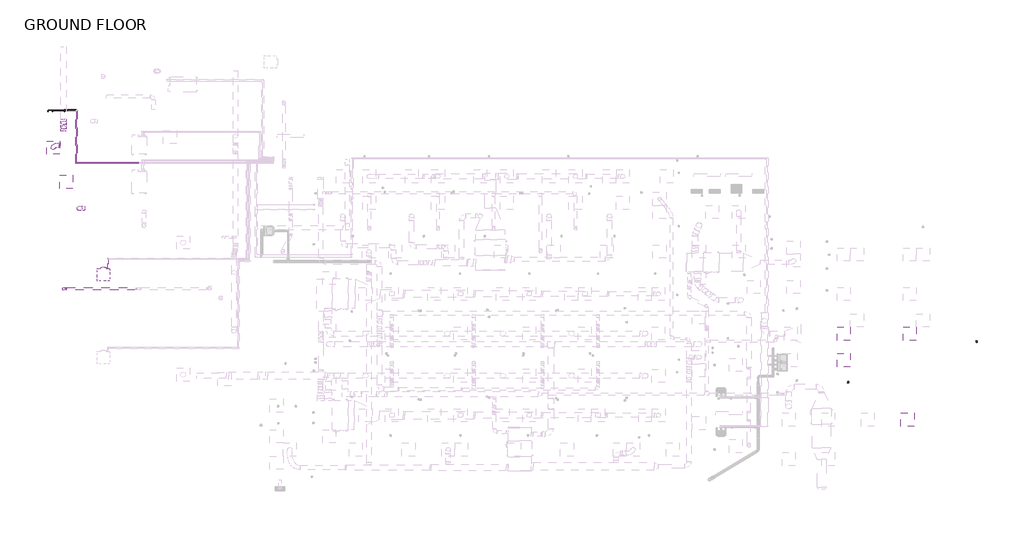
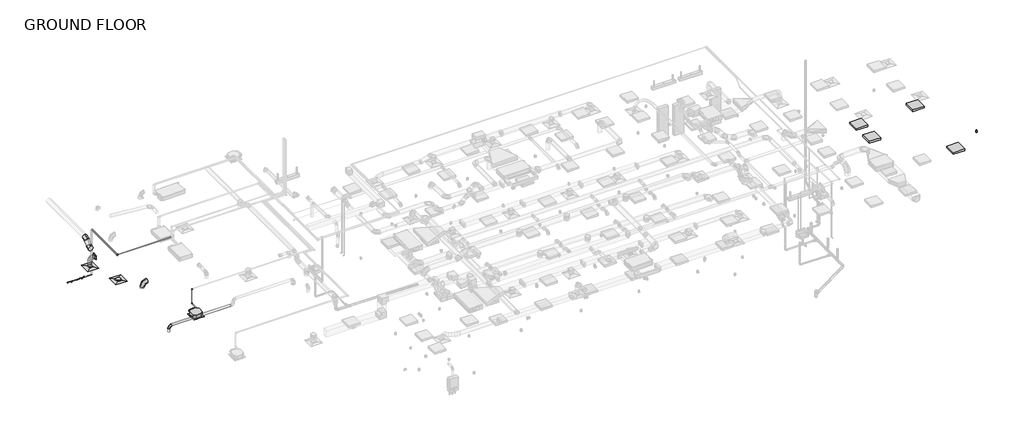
# One storey, part 10 of 21: 16 pipe segments, 13 pipe fittings, 5 duct fittings, 5 duct segments, 4 light fixtures, 2 air terminals, 2 proxies, 1 switching device.
"""IFC4 building model written with IfcOpenShell, lengths in millimetres."""

from ifc_helpers import new_model, si_unit, point, frame, frame_2d, origin, place, context, project, spatial, circle_curve, ellipse_curve, trimmed, segment, composite_curve, outline, extrude, transform, mapped, element, save
from ifc_brep_helpers import plane_surface, cylinder_surface, advanced_brep
from components import air_terminal_a1f6e78c, air_terminal_e9020785, mechanical_equipment_2d84379e, duplex_receptacle_countertop_10251bba, rectangular_to_round_transition_angle_45_degree_544928fe, round_elbow_1_d_df495868, round_elbow_1_d_c80420c1, round_elbow_1_d_ea3dccb8, troffer_corner_insert_2x2_3lamp_e67c7f8f, elbow_generic_standard_787ffbaa, elbow_generic_standard_c06ac706, elbow_generic_standard_a088f956, elbow_generic_standard_339fed54, tee_generic_standard_d345b28c, transition_generic_standard_19d9bb8b

model = new_model("IFC4")

# Units and contexts
model_context = context("Model", 3, world=origin())
ifc_project = project(units=[si_unit("LENGTHUNIT", "METRE", prefix="MILLI")], contexts=[model_context])

# Site, building, storey
site = spatial("IfcSite", under=ifc_project)
building = spatial("IfcBuilding", under=site)
storey = spatial("IfcBuildingStorey", under=building, Name="GROUND FLOOR", Elevation=30480.0)

# Air terminals
placement = place(None, origin())
air_terminal_shape = air_terminal_a1f6e78c(model_context)
element("IfcAirTerminal", 1, ObjectType="Supply Diffuser - Rectangular Face Round Neck - Hosted : 24\"x24\" Face 10\" Neck - Hosted", at=placement, inside=storey, context=model_context, shape_type="MappedRepresentation", body=[
    mapped(air_terminal_shape, transform((-18995.0704607, 6554.1945005, 32715.2), x_axis=(-1.0, 0.0, 0.0), y_axis=(0.0, 1.0, 0.0), z_axis=(0.0, 0.0, -1.0))),
])
air_terminal_2_shape = air_terminal_e9020785(model_context)
element("IfcAirTerminal", 2, ObjectType="Supply Diffuser - Rectangular Face Round Neck - Hosted : 24\"x24\" Face 8\" Neck - Hosted", at=placement, inside=storey, context=model_context, shape_type="MappedRepresentation", body=[
    mapped(air_terminal_2_shape, transform((-19604.6704607, 8141.6945005, 32715.2), x_axis=(-1.0, 0.0, 0.0), y_axis=(0.0, 1.0, 0.0), z_axis=(0.0, 0.0, -1.0))),
])

# Proxies
mechanical_equipment_shape = mechanical_equipment_2d84379e(model_context)
element("IfcBuildingElementProxy", 3, Name="PLFY-P-NCMU-E_4-way_24x24 : PLFY-P12NCMU-E", ObjectType="PLFY-P-NCMU-E_4-way_24x24 : PLFY-P12NCMU-E", at=placement, inside=storey, context=model_context, shape_type="MappedRepresentation", body=[
    mapped(mechanical_equipment_shape, transform((-17276.6017107, 2201.5275529, 32715.2), x_axis=(1.0, 0.0, 0.0), y_axis=(0.0, -1.0, 0.0), z_axis=(0.0, 0.0, -1.0))),
])
duplex_receptacle_countertop_shape = duplex_receptacle_countertop_10251bba(model_context)
element("IfcBuildingElementProxy", 4, Name="Duplex Receptacle : Standard", ObjectType="Duplex Receptacle : Standard", at=placement, inside=storey, context=model_context, shape_type="MappedRepresentation", body=[
    mapped(duplex_receptacle_countertop_shape, transform((23025.6405908, -795.9304995, 30937.2), x_axis=(-1.0, 0.0, 0.0), y_axis=(0.0, 0.0, 1.0), z_axis=(0.0, 1.0, 0.0))),
])

# Duct fittings
rectangular_to_round_transition_angle_45_degree_shape = rectangular_to_round_transition_angle_45_degree_544928fe(model_context)
element("IfcDuctFitting", 5, ObjectType="Rectangular to Round Transition - Angle : 45 Degree", at=placement, inside=storey, context=model_context, shape_type="MappedRepresentation", body=[
    mapped(rectangular_to_round_transition_angle_45_degree_shape, transform((-19272.8829607, 8243.4520797, 33126.0074624), x_axis=(-0.9999999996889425, 0.0, 2.4942236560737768e-05), y_axis=(0.0, -1.0000000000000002, 0.0), z_axis=(2.4942236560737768e-05, 0.0, 0.9999999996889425))),
])
round_elbow_1_d_shape = round_elbow_1_d_df495868(model_context)
element("IfcDuctFitting", 6, ObjectType="Round Elbow : 1 D", at=placement, inside=storey, context=model_context, shape_type="MappedRepresentation", body=[
    mapped(round_elbow_1_d_shape, transform((-18385.4704607, 5334.9945005, 33121.6), x_axis=(0.0, 0.0, 1.0), y_axis=(1.0, 0.0, 0.0), z_axis=(0.0, 1.0, 0.0))),
])
round_elbow_1_d_2_shape = round_elbow_1_d_c80420c1(model_context)
element("IfcDuctFitting", 7, ObjectType="Round Elbow : 1 D", at=placement, inside=storey, context=model_context, shape_type="MappedRepresentation", body=[
    mapped(round_elbow_1_d_2_shape, transform((-19110.9579607, 1613.8945005, 33121.6), x_axis=(0.0, 0.0, 1.0), y_axis=(1.0, 0.0, 0.0), z_axis=(0.0, 1.0, 0.0))),
])
round_elbow_1_d_3_shape = round_elbow_1_d_ea3dccb8(model_context)
element("IfcDuctFitting", 8, ObjectType="Round Elbow : 1 D", at=placement, inside=storey, context=model_context, shape_type="MappedRepresentation", body=[
    mapped(round_elbow_1_d_3_shape, transform((-19120.4829607, 9003.6440535, 33126.0036612), x_axis=(0.0, 1.0, 0.0), y_axis=(0.0, 0.0, 1.0), z_axis=(1.0, 0.0, 0.0))),
])
element("IfcDuctFitting", 9, ObjectType="Round Elbow : 1 D", at=placement, inside=storey, context=model_context, shape_type="MappedRepresentation", body=[
    mapped(round_elbow_1_d_3_shape, transform((-19120.4829607, 9354.8403924, 33477.2), x_axis=(0.0, 0.707106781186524, 0.7071067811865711), y_axis=(0.0, 0.7071067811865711, -0.707106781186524), z_axis=(-1.0, 0.0, 0.0))),
])

# Duct segments
element("IfcDuctSegment", 10, ObjectType="Flex - Round", at=placement, inside=storey, context=model_context, shape_type="AdvancedBrep", body=[
    advanced_brep(
    [(-19334.2039851, 8141.8520797, 33126.0089919), (-19334.2065193, 8243.4520797, 33024.4089919), (-19334.2039851, 8345.0520797, 33126.0089919), (-19334.201451, 8243.4520797, 33227.6089918), (-19339.3953235, 8141.8520797, 33126.0091214), (-19340.589868, 8243.4520797, 33024.4091511), (-19337.3595831, 8345.0520797, 33126.0090706), (-19336.1650386, 8243.4520797, 33227.6090408), (-19571.3746602, 8045.7051799, 32769.175), (-19700.6597813, 8108.3987, 32769.175), (-19637.9662612, 8237.6838211, 32769.175), (-19508.6811401, 8174.990301, 32769.175), (-19406.4431173, 8143.1962762, 33128.9291558), (-19402.5083386, 8244.6934419, 33027.1057956), (-19412.9036409, 8346.5666122, 33129.2991304), (-19416.8384197, 8245.0694466, 33231.1224905), (-19458.1959934, 8138.8316889, 33119.2963139), (-19433.6401005, 8242.0679396, 33021.3111932), (-19496.173822, 8339.5440078, 33113.7999244), (-19520.7297149, 8236.3077571, 33211.785045), (-19497.1563337, 8124.9192335, 33086.9890267), (-19453.0278625, 8235.1447102, 33005.2341778), (-19559.6360729, 8316.8820975, 33061.1747893), (-19603.7645441, 8206.6566208, 33142.9296382), (-19530.1815615, 8102.0336622, 33028.1559055), (-19476.4370244, 8218.9228071, 32963.531693), (-19599.3318789, 8289.3739996, 32990.4583001), (-19653.076416, 8172.4848547, 33055.0825126), (-19553.6660683, 8076.2518524, 32949.9398995), (-19494.9390578, 8198.6108666, 32901.9099964), (-19622.8542209, 8263.5506536, 32912.116283), (-19681.5812314, 8141.1916394, 32960.1461861), (-19567.1119955, 8054.8656115, 32861.6704606), (-19505.5237169, 8181.7755775, 32832.4241281), (-19634.6883299, 8244.7280686, 32834.4280616), (-19696.2766085, 8117.8181025, 32863.6743941), (-19571.3746602, 8045.7051799, 32785.4279752), (-19508.6811401, 8174.990301, 32775.9501136), (-19637.9662612, 8237.6838211, 32775.7986259), (-19700.6597813, 8108.3987, 32785.2764875)],
    [
        (0, 1, circle_curve(frame((-19334.2039851, 8243.4520797, 33126.0089919), z_axis=(0.9999999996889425, 0.0, -2.4942236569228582e-05), x_axis=(0.0, -1.0, 0.0)), 101.6)),
        (1, 2, circle_curve(frame((-19334.2039851, 8243.4520797, 33126.0089919), z_axis=(0.9999999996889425, 0.0, -2.4942236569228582e-05), x_axis=(0.0, -1.0, 0.0)), 101.6)),
        (2, 3, circle_curve(frame((-19334.2039851, 8243.4520797, 33126.0089919), z_axis=(0.9999999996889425, 0.0, -2.4942236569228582e-05), x_axis=(0.0, -1.0, 0.0)), 101.6)),
        (3, 0, circle_curve(frame((-19334.2039851, 8243.4520797, 33126.0089919), z_axis=(0.9999999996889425, 0.0, -2.4942236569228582e-05), x_axis=(0.0, -1.0, 0.0)), 101.6)),
        (0, 4),
        (4, 5, ellipse_curve(frame((-19338.3774533, 8243.4520797, 33126.009096), z_axis=(0.9997128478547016, -0.010015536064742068, -0.02176949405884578), x_axis=(0.023962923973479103, 0.41823517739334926, 0.9080226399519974)), 101.6291279, 101.6)),
        (5, 1),
        (5, 6, ellipse_curve(frame((-19338.3774533, 8243.4520797, 33126.009096), z_axis=(0.9997128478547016, -0.010015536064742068, -0.02176949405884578), x_axis=(0.023962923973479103, 0.41823517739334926, 0.9080226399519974)), 101.6291279, 101.6)),
        (6, 2),
        (6, 7, ellipse_curve(frame((-19338.3774533, 8243.4520797, 33126.009096), z_axis=(0.9997128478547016, -0.010015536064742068, -0.02176949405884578), x_axis=(0.023962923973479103, 0.41823517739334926, 0.9080226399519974)), 101.6291279, 101.6)),
        (7, 3),
        (7, 4, ellipse_curve(frame((-19338.3774533, 8243.4520797, 33126.009096), z_axis=(0.9997128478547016, -0.010015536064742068, -0.02176949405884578), x_axis=(0.023962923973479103, 0.41823517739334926, 0.9080226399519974)), 101.6291279, 101.6)),
        (8, 9, circle_curve(frame((-19604.6704607, 8141.6945005, 32769.175), z_axis=(0.0, 0.0, -1.0), x_axis=(0.32771457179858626, -0.9447767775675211, 0.0)), 101.6)),
        (9, 10, circle_curve(frame((-19604.6704607, 8141.6945005, 32769.175), z_axis=(0.0, 0.0, -1.0), x_axis=(0.32771457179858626, -0.9447767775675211, 0.0)), 101.6)),
        (10, 11, circle_curve(frame((-19604.6704607, 8141.6945005, 32769.175), z_axis=(0.0, 0.0, -1.0), x_axis=(0.32771457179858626, -0.9447767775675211, 0.0)), 101.6)),
        (11, 8, circle_curve(frame((-19604.6704607, 8141.6945005, 32769.175), z_axis=(0.0, 0.0, -1.0), x_axis=(0.32771457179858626, -0.9447767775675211, 0.0)), 101.6)),
        (4, 12),
        (12, 13, ellipse_curve(frame((-19409.6733791, 8244.8814442, 33129.1141431), z_axis=(0.9970498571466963, 0.03154626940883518, 0.06997438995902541), x_axis=(0.07675629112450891, -0.4125398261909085, -0.9077000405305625)), 102.395597, 101.6)),
        (13, 5),
        (13, 14, ellipse_curve(frame((-19409.6733791, 8244.8814442, 33129.1141431), z_axis=(0.9970498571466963, 0.03154626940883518, 0.06997438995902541), x_axis=(0.07675629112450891, -0.4125398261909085, -0.9077000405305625)), 102.395597, 101.6)),
        (14, 6),
        (14, 15, ellipse_curve(frame((-19409.6733791, 8244.8814442, 33129.1141431), z_axis=(0.9970498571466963, 0.03154626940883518, 0.06997438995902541), x_axis=(0.07675629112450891, -0.4125398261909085, -0.9077000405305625)), 102.395597, 101.6)),
        (15, 7),
        (15, 12, ellipse_curve(frame((-19409.6733791, 8244.8814442, 33129.1141431), z_axis=(0.9970498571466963, 0.03154626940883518, 0.06997438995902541), x_axis=(0.07675629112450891, -0.4125398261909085, -0.9077000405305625)), 102.395597, 101.6)),
        (12, 16),
        (16, 17, ellipse_curve(frame((-19477.1849077, 8239.1878483, 33116.5481191), z_axis=(0.892486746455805, 0.18019602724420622, 0.41351759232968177), x_axis=(0.4510463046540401, -0.34642325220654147, -0.8225254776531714)), 105.3159408, 101.6)),
        (17, 13),
        (17, 18, ellipse_curve(frame((-19477.1849077, 8239.1878483, 33116.5481191), z_axis=(0.892486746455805, 0.18019602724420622, 0.41351759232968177), x_axis=(0.4510463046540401, -0.34642325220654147, -0.8225254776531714)), 105.3159408, 101.6)),
        (18, 14),
        (18, 19, ellipse_curve(frame((-19477.1849077, 8239.1878483, 33116.5481191), z_axis=(0.892486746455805, 0.18019602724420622, 0.41351759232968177), x_axis=(0.4510463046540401, -0.34642325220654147, -0.8225254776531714)), 105.3159408, 101.6)),
        (19, 15),
        (19, 16, ellipse_curve(frame((-19477.1849077, 8239.1878483, 33116.5481191), z_axis=(0.892486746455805, 0.18019602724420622, 0.41351759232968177), x_axis=(0.4510463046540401, -0.34642325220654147, -0.8225254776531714)), 105.3159408, 101.6)),
        (16, 20),
        (20, 21, ellipse_curve(frame((-19528.3962033, 8220.9006655, 33074.081908), z_axis=(0.612545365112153, 0.297830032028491, 0.7321785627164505), x_axis=(0.7880932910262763, -0.158863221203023, -0.5947028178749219)), 103.2263921, 101.6)),
        (21, 17),
        (21, 22, ellipse_curve(frame((-19528.3962033, 8220.9006655, 33074.081908), z_axis=(0.612545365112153, 0.297830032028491, 0.7321785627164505), x_axis=(0.7880932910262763, -0.158863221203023, -0.5947028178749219)), 103.2263921, 101.6)),
        (22, 18),
        (22, 23, ellipse_curve(frame((-19528.3962033, 8220.9006655, 33074.081908), z_axis=(0.612545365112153, 0.297830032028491, 0.7321785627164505), x_axis=(0.7880932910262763, -0.158863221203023, -0.5947028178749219)), 103.2263921, 101.6)),
        (23, 19),
        (23, 20, ellipse_curve(frame((-19528.3962033, 8220.9006655, 33074.081908), z_axis=(0.612545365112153, 0.297830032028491, 0.7321785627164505), x_axis=(0.7880932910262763, -0.158863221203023, -0.5947028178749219)), 103.2263921, 101.6)),
        (20, 24),
        (24, 25, ellipse_curve(frame((-19564.7567202, 8195.7038309, 33009.3071028), z_axis=(0.3709301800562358, 0.3128621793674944, 0.8743729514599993), x_axis=(0.9034628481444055, 0.09626809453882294, -0.4177168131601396)), 102.1623078, 101.6)),
        (25, 21),
        (25, 26, ellipse_curve(frame((-19564.7567202, 8195.7038309, 33009.3071028), z_axis=(0.3709301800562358, 0.3128621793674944, 0.8743729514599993), x_axis=(0.9034628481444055, 0.09626809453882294, -0.4177168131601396)), 102.1623078, 101.6)),
        (26, 22),
        (26, 27, ellipse_curve(frame((-19564.7567202, 8195.7038309, 33009.3071028), z_axis=(0.3709301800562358, 0.3128621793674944, 0.8743729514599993), x_axis=(0.9034628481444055, 0.09626809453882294, -0.4177168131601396)), 102.1623078, 101.6)),
        (27, 23),
        (27, 24, ellipse_curve(frame((-19564.7567202, 8195.7038309, 33009.3071028), z_axis=(0.3709301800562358, 0.3128621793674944, 0.8743729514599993), x_axis=(0.9034628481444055, 0.09626809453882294, -0.4177168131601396)), 102.1623078, 101.6)),
        (24, 28),
        (28, 29, ellipse_curve(frame((-19588.2601446, 8169.901253, 32931.0280912), z_axis=(0.21095319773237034, 0.26777325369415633, 0.9401043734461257), x_axis=(0.8374803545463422, 0.44647609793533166, -0.31509641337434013)), 101.8969452, 101.6)),
        (29, 25),
        (29, 30, ellipse_curve(frame((-19588.2601446, 8169.901253, 32931.0280912), z_axis=(0.21095319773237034, 0.26777325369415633, 0.9401043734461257), x_axis=(0.8374803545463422, 0.44647609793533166, -0.31509641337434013)), 101.8969452, 101.6)),
        (30, 26),
        (30, 31, ellipse_curve(frame((-19588.2601446, 8169.901253, 32931.0280912), z_axis=(0.21095319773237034, 0.26777325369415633, 0.9401043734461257), x_axis=(0.8374803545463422, 0.44647609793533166, -0.31509641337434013)), 101.8969452, 101.6)),
        (31, 27),
        (31, 28, ellipse_curve(frame((-19588.2601446, 8169.901253, 32931.0280912), z_axis=(0.21095319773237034, 0.26777325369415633, 0.9401043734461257), x_axis=(0.8374803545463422, 0.44647609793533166, -0.31509641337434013)), 101.8969452, 101.6)),
        (28, 32),
        (32, 33, ellipse_curve(frame((-19600.9001627, 8149.79684, 32848.0492611), z_axis=(0.10121724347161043, 0.17650886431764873, 0.9790810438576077), x_axis=(0.6117779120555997, 0.765023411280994, -0.20116402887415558)), 101.882316, 101.6)),
        (33, 29),
        (33, 34, ellipse_curve(frame((-19600.9001627, 8149.79684, 32848.0492611), z_axis=(0.10121724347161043, 0.17650886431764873, 0.9790810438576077), x_axis=(0.6117779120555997, 0.765023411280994, -0.20116402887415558)), 101.882316, 101.6)),
        (34, 30),
        (34, 35, ellipse_curve(frame((-19600.9001627, 8149.79684, 32848.0492611), z_axis=(0.10121724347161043, 0.17650886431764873, 0.9790810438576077), x_axis=(0.6117779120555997, 0.765023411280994, -0.20116402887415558)), 101.882316, 101.6)),
        (35, 31),
        (35, 32, ellipse_curve(frame((-19600.9001627, 8149.79684, 32848.0492611), z_axis=(0.10121724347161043, 0.17650886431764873, 0.9790810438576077), x_axis=(0.6117779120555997, 0.765023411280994, -0.20116402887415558)), 101.882316, 101.6)),
        (32, 36),
        (36, 37, ellipse_curve(frame((-19604.6704607, 8141.6945005, 32780.6133005), z_axis=(0.027772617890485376, 0.05968312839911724, 0.9978309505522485), x_axis=(0.42097828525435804, 0.9046788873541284, -0.06582852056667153)), 101.8208545, 101.6)),
        (37, 33),
        (37, 38, ellipse_curve(frame((-19604.6704607, 8141.6945005, 32780.6133005), z_axis=(0.027772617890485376, 0.05968312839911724, 0.9978309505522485), x_axis=(0.42097828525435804, 0.9046788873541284, -0.06582852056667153)), 101.8208545, 101.6)),
        (38, 34),
        (38, 39, ellipse_curve(frame((-19604.6704607, 8141.6945005, 32780.6133005), z_axis=(0.027772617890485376, 0.05968312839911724, 0.9978309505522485), x_axis=(0.42097828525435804, 0.9046788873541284, -0.06582852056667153)), 101.8208545, 101.6)),
        (39, 35),
        (39, 36, ellipse_curve(frame((-19604.6704607, 8141.6945005, 32780.6133005), z_axis=(0.027772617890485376, 0.05968312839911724, 0.9978309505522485), x_axis=(0.42097828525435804, 0.9046788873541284, -0.06582852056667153)), 101.8208545, 101.6)),
        (36, 8),
        (11, 37),
        (10, 38),
        (9, 39),
    ],
    [
        plane_surface(frame((-19334.2065193, 8243.4520797, 33024.4089919), z_axis=(0.9999999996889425, 0.0, -2.4942236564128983e-05), x_axis=(0.0, -1.0, 0.0))),
        cylinder_surface(frame((-19334.2039851, 8243.4520797, 33126.0089919), z_axis=(0.9999999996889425, 0.0, -2.4942236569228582e-05), x_axis=(0.0, -1.0, 0.0)), 101.6),
        plane_surface(frame((-19604.6704607, 8040.0945005, 32769.175), z_axis=(0.0, 0.0, -1.0), x_axis=(-1.0, 0.0, 0.0))),
        cylinder_surface(frame((-19338.3774533, 8243.4520797, 33126.009096), z_axis=(0.998852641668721, -0.020025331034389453, -0.04350156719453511), x_axis=(-0.020025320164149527, -0.9997993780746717, 0.0004360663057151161)), 101.6),
        cylinder_surface(frame((-19409.6733791, 8244.8814442, 33129.1141431), z_axis=(0.979753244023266, 0.0826276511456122, 0.18236296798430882), x_axis=(0.08262229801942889, -0.996551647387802, 0.007640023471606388)), 101.6),
        cylinder_surface(frame((-19477.1849077, 8239.1878483, 33116.5481191), z_axis=(0.7422396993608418, 0.26504842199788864, 0.6154913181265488), x_axis=(0.26589633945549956, -0.9595480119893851, 0.09255673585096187)), 101.6),
        cylinder_surface(frame((-19528.3962033, 8220.9006655, 33074.081908), z_axis=(0.4635490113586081, 0.3212266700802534, 0.8257940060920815), x_axis=(0.33344856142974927, -0.926702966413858, 0.17330224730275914)), 101.6),
        cylinder_surface(frame((-19564.7567202, 8195.7038309, 33009.3071028), z_axis=(0.274228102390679, 0.3010536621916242, 0.913326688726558), x_axis=(0.34436383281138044, -0.9174964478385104, 0.19903220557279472)), 101.6),
        cylinder_surface(frame((-19588.2601446, 8169.901253, 32931.0280912), z_axis=(0.14644878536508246, 0.23293217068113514, 0.9614028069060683), x_axis=(0.3384256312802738, -0.9250340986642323, 0.1725688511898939)), 101.6),
        cylinder_surface(frame((-19600.9001627, 8149.79684, 32848.0492611), z_axis=(0.05542475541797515, 0.11910734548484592, 0.9913332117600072), x_axis=(0.33034106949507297, -0.9391324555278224, 0.09436635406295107)), 101.6),
        cylinder_surface(frame((-19604.6704607, 8141.6945005, 32780.6133005), z_axis=(0.0, 0.0, 1.0), x_axis=(0.32771457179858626, -0.9447767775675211, 0.0)), 101.6),
    ],
    [
        (0, [[1, 2, 3, 4]]),
        (1, [[-1, 5, 6, 7]]),
        (1, [[-2, -7, 8, 9]]),
        (1, [[-3, -9, 10, 11]]),
        (1, [[-4, -11, 12, -5]]),
        (2, [[13, 14, 15, 16]]),
        (3, [[-6, 17, 18, 19]]),
        (3, [[-8, -19, 20, 21]]),
        (3, [[-10, -21, 22, 23]]),
        (3, [[-12, -23, 24, -17]]),
        (4, [[-18, 25, 26, 27]]),
        (4, [[-20, -27, 28, 29]]),
        (4, [[-22, -29, 30, 31]]),
        (4, [[-24, -31, 32, -25]]),
        (5, [[-26, 33, 34, 35]]),
        (5, [[-28, -35, 36, 37]]),
        (5, [[-30, -37, 38, 39]]),
        (5, [[-32, -39, 40, -33]]),
        (6, [[-34, 41, 42, 43]]),
        (6, [[-36, -43, 44, 45]]),
        (6, [[-38, -45, 46, 47]]),
        (6, [[-40, -47, 48, -41]]),
        (7, [[-42, 49, 50, 51]]),
        (7, [[-44, -51, 52, 53]]),
        (7, [[-46, -53, 54, 55]]),
        (7, [[-48, -55, 56, -49]]),
        (8, [[-50, 57, 58, 59]]),
        (8, [[-52, -59, 60, 61]]),
        (8, [[-54, -61, 62, 63]]),
        (8, [[-56, -63, 64, -57]]),
        (9, [[-58, 65, 66, 67]]),
        (9, [[-60, -67, 68, 69]]),
        (9, [[-62, -69, 70, 71]]),
        (9, [[-64, -71, 72, -65]]),
        (10, [[-66, 73, -16, 74]]),
        (10, [[-68, -74, -15, 75]]),
        (10, [[-70, -75, -14, 76]]),
        (10, [[-72, -76, -13, -73]]),
    ],
),
])
element("IfcDuctSegment", 11, ObjectType="Taps / Short Radius", at=placement, inside=storey, context=model_context, shape_type="SweptSolid", body=[
    extrude(outline(composite_curve([segment(trimmed(circle_curve(frame_2d((-18385.4704607, 5334.9945005)), 114.3), [point((-18385.4704607, 5449.2945005))], [point((-18271.1704607, 5334.9945005))], False, "CARTESIAN"), True, "CONTINUOUS"), segment(trimmed(circle_curve(frame_2d((-18385.4704607, 5334.9945005)), 114.3), [point((-18271.1704607, 5334.9945005))], [point((-18385.4704607, 5220.6945005))], False, "CARTESIAN"), True, "CONTINUOUS"), segment(trimmed(circle_curve(frame_2d((-18385.4704607, 5334.9945005)), 114.3), [point((-18385.4704607, 5220.6945005))], [point((-18499.7704607, 5334.9945005))], False, "CARTESIAN"), True, "CONTINUOUS"), segment(trimmed(circle_curve(frame_2d((-18385.4704607, 5334.9945005)), 114.3), [point((-18499.7704607, 5334.9945005))], [point((-18385.4704607, 5449.2945005))], False, "CARTESIAN"), True, "CONTINUOUS")], self_intersect=False)), frame((0.0, 0.0, 32816.8), z_axis=(0.0, 0.0, 1.0), x_axis=(1.0, 0.0, 0.0)), (0.0, 0.0, 1.0), 76.2),
])
element("IfcDuctSegment", 12, ObjectType="Taps / Short Radius", at=placement, inside=storey, context=model_context, shape_type="SweptSolid", body=[
    extrude(outline(composite_curve([segment(trimmed(circle_curve(frame_2d((-19110.9579607, 1613.8945005)), 63.5), [point((-19110.9579607, 1550.3945005))], [point((-19174.4579607, 1613.8945005))], False, "CARTESIAN"), True, "CONTINUOUS"), segment(trimmed(circle_curve(frame_2d((-19110.9579607, 1613.8945005)), 63.5), [point((-19174.4579607, 1613.8945005))], [point((-19110.9579607, 1677.3945005))], False, "CARTESIAN"), True, "CONTINUOUS"), segment(trimmed(circle_curve(frame_2d((-19110.9579607, 1613.8945005)), 63.5), [point((-19110.9579607, 1677.3945005))], [point((-19047.4579607, 1613.8945005))], False, "CARTESIAN"), True, "CONTINUOUS"), segment(trimmed(circle_curve(frame_2d((-19110.9579607, 1613.8945005)), 63.5), [point((-19047.4579607, 1613.8945005))], [point((-19110.9579607, 1550.3945005))], False, "CARTESIAN"), True, "CONTINUOUS")], self_intersect=False)), frame((0.0, 0.0, 32816.8), z_axis=(0.0, 0.0, 1.0), x_axis=(1.0, 0.0, 0.0)), (0.0, 0.0, 1.0), 177.8),
])
element("IfcDuctSegment", 13, ObjectType="Taps / Short Radius", at=placement, inside=storey, context=model_context, shape_type="SweptSolid", body=[
    extrude(outline(composite_curve([segment(trimmed(circle_curve(frame_2d((1613.8945005, 33121.6)), 63.5), [point((1550.3945005, 33121.6))], [point((1613.8945005, 33185.1))], False, "CARTESIAN"), True, "CONTINUOUS"), segment(trimmed(circle_curve(frame_2d((1613.8945005, 33121.6)), 63.5), [point((1613.8945005, 33185.1))], [point((1677.3945005, 33121.6))], False, "CARTESIAN"), True, "CONTINUOUS"), segment(trimmed(circle_curve(frame_2d((1613.8945005, 33121.6)), 63.5), [point((1677.3945005, 33121.6))], [point((1613.8945005, 33058.1))], False, "CARTESIAN"), True, "CONTINUOUS"), segment(trimmed(circle_curve(frame_2d((1613.8945005, 33121.6)), 63.5), [point((1613.8945005, 33058.1))], [point((1550.3945005, 33121.6))], False, "CARTESIAN"), True, "CONTINUOUS")], self_intersect=False)), frame((-18983.9579607, 0.0, 0.0), z_axis=(1.0, 0.0, 0.0), x_axis=(0.0, 1.0, 0.0)), (0.0, 0.0, 1.0), 3200.4),
])
element("IfcDuctSegment", 14, ObjectType="Taps / Short Radius", at=placement, inside=storey, context=model_context, shape_type="SweptSolid", body=[
    extrude(outline(composite_curve([segment(trimmed(circle_curve(frame_2d((0.0, 127.0)), 127.0), [point((-127.0, 127.0))], [point((0.0, 254.0))], False, "CARTESIAN"), True, "CONTINUOUS"), segment(trimmed(circle_curve(frame_2d((0.0, 127.0)), 127.0), [point((0.0, 254.0))], [point((127.0, 127.0))], False, "CARTESIAN"), True, "CONTINUOUS"), segment(trimmed(circle_curve(frame_2d((0.0, 127.0)), 127.0), [point((127.0, 127.0))], [point((0.0, 0.0))], False, "CARTESIAN"), True, "CONTINUOUS"), segment(trimmed(circle_curve(frame_2d((0.0, 127.0)), 127.0), [point((0.0, 0.0))], [point((-127.0, 127.0))], False, "CARTESIAN"), True, "CONTINUOUS")], self_intersect=False)), frame((-19120.4829607, 8988.2363699, 33290.2011), z_axis=(0.0, 0.707106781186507, 0.707106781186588), x_axis=(1.0, 0.0, 0.0)), (0.0, 0.0, 1.0), 286.2461357),
])

# Light fixtures
troffer_corner_insert_2x2_3lamp_shape = troffer_corner_insert_2x2_3lamp_e67c7f8f(model_context)
element("IfcLightFixture", 15, ObjectType="Troffer Corner Insert : 2x2 3Lamp", at=placement, inside=storey, context=model_context, shape_type="MappedRepresentation", body=[
    mapped(troffer_corner_insert_2x2_3lamp_shape, transform((16887.1920393, -457.7929995, 30784.8), x_axis=(1.0, 0.0, 0.0), y_axis=(0.0, 1.0, 0.0), z_axis=(0.0, 0.0, 1.0))),
])
element("IfcLightFixture", 16, ObjectType="Troffer Corner Insert : 2x2 3Lamp", at=placement, inside=storey, context=model_context, shape_type="MappedRepresentation", body=[
    mapped(troffer_corner_insert_2x2_3lamp_shape, transform((19935.1920393, -457.7929995, 30784.8), x_axis=(1.0, 0.0, 0.0), y_axis=(0.0, 1.0, 0.0), z_axis=(0.0, 0.0, 1.0))),
])
element("IfcLightFixture", 17, ObjectType="Troffer Corner Insert : 2x2 3Lamp", at=placement, inside=storey, context=model_context, shape_type="MappedRepresentation", body=[
    mapped(troffer_corner_insert_2x2_3lamp_shape, transform((16887.1920393, -1676.9929995, 30784.8), x_axis=(1.0, 0.0, 0.0), y_axis=(0.0, 1.0, 0.0), z_axis=(0.0, 0.0, 1.0))),
])
element("IfcLightFixture", 18, ObjectType="Troffer Corner Insert : 2x2 3Lamp", at=placement, inside=storey, context=model_context, shape_type="MappedRepresentation", body=[
    mapped(troffer_corner_insert_2x2_3lamp_shape, transform((19832.0045393, -4424.9554995, 30784.8), x_axis=(1.0, 0.0, 0.0), y_axis=(0.0, 1.0, 0.0), z_axis=(0.0, 0.0, 1.0))),
])

# Pipe fittings
elbow_generic_standard_shape = elbow_generic_standard_787ffbaa(model_context)
element("IfcPipeFitting", 19, ObjectType="Elbow - Generic : Standard", at=placement, inside=storey, context=model_context, shape_type="MappedRepresentation", body=[
    mapped(elbow_generic_standard_shape, transform((-19633.2454607, 9844.2892607, 30835.6), x_axis=(-1.0, 0.0, 0.0), y_axis=(0.0, -0.9999999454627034, 0.0003302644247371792), z_axis=(0.0, 0.0003302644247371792, 0.9999999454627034))),
])
element("IfcPipeFitting", 20, ObjectType="Elbow - Generic : Standard", at=placement, inside=storey, context=model_context, shape_type="MappedRepresentation", body=[
    mapped(elbow_generic_standard_shape, transform((-19201.4454607, 9844.2892607, 30835.6), x_axis=(1.0, 0.0, 0.0), y_axis=(0.0, 0.0, 1.0), z_axis=(0.0, -1.0, 0.0))),
])
element("IfcPipeFitting", 21, ObjectType="Elbow - Generic : Standard", at=placement, inside=storey, context=model_context, shape_type="MappedRepresentation", body=[
    mapped(elbow_generic_standard_shape, transform((-19201.4454607, 9844.2892607, 30886.4), x_axis=(0.0, 0.0, 1.0), y_axis=(1.0, 0.0, 0.0), z_axis=(0.0, 1.0, 0.0))),
])
elbow_generic_standard_2_shape = elbow_generic_standard_c06ac706(model_context)
element("IfcPipeFitting", 22, ObjectType="Elbow - Generic : Standard", at=placement, inside=storey, context=model_context, shape_type="MappedRepresentation", body=[
    mapped(elbow_generic_standard_2_shape, transform((-17078.1642107, 2984.2674809, 32865.2187602), x_axis=(0.0, 1.0, 0.0), y_axis=(0.0, 0.0, 1.0), z_axis=(1.0, 0.0, 0.0))),
])
element("IfcPipeFitting", 23, ObjectType="Elbow - Generic : Standard", at=placement, inside=storey, context=model_context, shape_type="MappedRepresentation", body=[
    mapped(elbow_generic_standard_2_shape, transform((-17078.1642107, 2984.2674809, 33680.4), x_axis=(0.0, 0.0, 1.0), y_axis=(1.0, 0.0, 0.0), z_axis=(0.0, 1.0, 0.0))),
])
element("IfcPipeFitting", 24, ObjectType="Elbow - Generic : Standard", at=placement, inside=storey, context=model_context, shape_type="MappedRepresentation", body=[
    mapped(elbow_generic_standard_2_shape, transform((-18495.0079607, 7460.2718518, 33436.8475147), x_axis=(0.0, -1.0, 0.0), y_axis=(1.0, 0.0, 0.0), z_axis=(0.0, 0.0, 1.0))),
])
element("IfcPipeFitting", 25, ObjectType="Elbow - Generic : Standard", at=placement, inside=storey, context=model_context, shape_type="MappedRepresentation", body=[
    mapped(elbow_generic_standard_2_shape, transform((-18552.1579607, 7415.8218518, 33436.8475147), x_axis=(0.0, -1.0, 0.0), y_axis=(1.0, 0.0, 0.0), z_axis=(0.0, 0.0, 1.0))),
])
elbow_generic_standard_3_shape = elbow_generic_standard_a088f956(model_context)
element("IfcPipeFitting", 26, ObjectType="Elbow - Generic : Standard", at=placement, inside=storey, context=model_context, shape_type="MappedRepresentation", body=[
    mapped(elbow_generic_standard_3_shape, transform((-17074.9892107, 3013.8265677, 33680.4), x_axis=(0.0, 0.0, 1.0), y_axis=(1.0, 0.0, 0.0), z_axis=(0.0, 1.0, 0.0))),
])
element("IfcPipeFitting", 27, ObjectType="Elbow - Generic : Standard", at=placement, inside=storey, context=model_context, shape_type="MappedRepresentation", body=[
    mapped(elbow_generic_standard_3_shape, transform((-19836.4454607, 9873.2718518, 30835.6), x_axis=(-1.0, 0.0, 0.0), y_axis=(0.0, -1.0, 0.0), z_axis=(0.0, 0.0, 1.0))),
])
elbow_generic_standard_4_shape = elbow_generic_standard_339fed54(model_context)
element("IfcPipeFitting", 28, ObjectType="Elbow - Generic : Standard", at=placement, inside=storey, context=model_context, shape_type="MappedRepresentation", body=[
    mapped(elbow_generic_standard_4_shape, transform((-17074.9892107, 3013.8265677, 32835.85), x_axis=(0.0, 0.9999999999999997, -2.6880093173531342e-08), y_axis=(0.0, 2.6880093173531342e-08, 0.9999999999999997), z_axis=(1.0, 0.0, 0.0))),
])
tee_generic_standard_shape = tee_generic_standard_d345b28c(model_context)
element("IfcPipeFitting", 29, ObjectType="Tee - Generic : Standard", at=placement, inside=storey, context=model_context, shape_type="MappedRepresentation", body=[
    mapped(tee_generic_standard_shape, transform((-19074.3484822, 9873.2718518, 30835.6), x_axis=(1.0, 0.0, 0.0), y_axis=(0.0, 1.0, 0.0), z_axis=(0.0, 0.0, 1.0))),
])
transition_generic_standard_shape = transition_generic_standard_19d9bb8b(model_context)
element("IfcPipeFitting", 30, ObjectType="Transition - Generic : Standard", at=placement, inside=storey, context=model_context, shape_type="MappedRepresentation", body=[
    mapped(transition_generic_standard_shape, transform((-19101.3359822, 9873.2718518, 30835.6), x_axis=(-1.0, 0.0, 0.0), y_axis=(0.0, -1.0, 0.0), z_axis=(0.0, 0.0, 1.0))),
])
element("IfcPipeFitting", 31, ObjectType="Transition - Generic : Standard", at=placement, inside=storey, context=model_context, shape_type="MappedRepresentation", body=[
    mapped(transition_generic_standard_shape, transform((-19074.3484822, 9846.2843518, 30835.6), x_axis=(0.0, -1.0, 0.0), y_axis=(1.0, 0.0, 0.0), z_axis=(0.0, 0.0, 1.0))),
])

# Pipe segments
element("IfcPipeSegment", 32, ObjectType="Copper", at=placement, inside=storey, context=model_context, shape_type="SweptSolid", body=[
    extrude(outline(composite_curve([segment(trimmed(circle_curve(frame_2d((32835.8500102, -17074.9892107)), 7.9375), [point((32835.8500102, -17067.0517107))], [point((32843.7875102, -17074.9892107))], False, "CARTESIAN"), True, "CONTINUOUS"), segment(trimmed(circle_curve(frame_2d((32835.8500102, -17074.9892107)), 7.9375), [point((32843.7875102, -17074.9892107))], [point((32835.8500102, -17082.9267107))], False, "CARTESIAN"), True, "CONTINUOUS"), segment(trimmed(circle_curve(frame_2d((32835.8500102, -17074.9892107)), 7.9375), [point((32835.8500102, -17082.9267107))], [point((32827.9125102, -17074.9892107))], False, "CARTESIAN"), True, "CONTINUOUS"), segment(trimmed(circle_curve(frame_2d((32835.8500102, -17074.9892107)), 7.9375), [point((32827.9125102, -17074.9892107))], [point((32835.8500102, -17067.0517107))], False, "CARTESIAN"), True, "CONTINUOUS")], self_intersect=False)), frame((0.0, 2555.1048442, 0.0), z_axis=(0.0, 1.0, 0.0), x_axis=(0.0, 0.0, 1.0)), (0.0, 0.0, 1.0), 444.4342232),
])
element("IfcPipeSegment", 33, ObjectType="Copper", at=placement, inside=storey, context=model_context, shape_type="SweptSolid", body=[
    extrude(outline(composite_curve([segment(trimmed(circle_curve(frame_2d((-17074.9892107, 3013.8265677)), 7.9375), [point((-17082.9267107, 3013.8265677))], [point((-17074.9892107, 3021.7640677))], False, "CARTESIAN"), True, "CONTINUOUS"), segment(trimmed(circle_curve(frame_2d((-17074.9892107, 3013.8265677)), 7.9375), [point((-17074.9892107, 3021.7640677))], [point((-17067.0517107, 3013.8265677))], False, "CARTESIAN"), True, "CONTINUOUS"), segment(trimmed(circle_curve(frame_2d((-17074.9892107, 3013.8265677)), 7.9375), [point((-17067.0517107, 3013.8265677))], [point((-17074.9892107, 3005.8890677))], False, "CARTESIAN"), True, "CONTINUOUS"), segment(trimmed(circle_curve(frame_2d((-17074.9892107, 3013.8265677)), 7.9375), [point((-17074.9892107, 3005.8890677))], [point((-17082.9267107, 3013.8265677))], False, "CARTESIAN"), True, "CONTINUOUS")], self_intersect=False)), frame((0.0, 0.0, 32850.1375004), z_axis=(0.0, 0.0, 1.0), x_axis=(1.0, 0.0, 0.0)), (0.0, 0.0, 1.0), 815.9749996),
])
element("IfcPipeSegment", 34, ObjectType="Copper", at=placement, inside=storey, context=model_context, shape_type="SweptSolid", body=[
    extrude(outline(composite_curve([segment(trimmed(circle_curve(frame_2d((32865.2187602, -17078.1642107)), 14.2875), [point((32865.2187602, -17063.8767107))], [point((32879.5062602, -17078.1642107))], False, "CARTESIAN"), True, "CONTINUOUS"), segment(trimmed(circle_curve(frame_2d((32865.2187602, -17078.1642107)), 14.2875), [point((32879.5062602, -17078.1642107))], [point((32865.2187602, -17092.4517107))], False, "CARTESIAN"), True, "CONTINUOUS"), segment(trimmed(circle_curve(frame_2d((32865.2187602, -17078.1642107)), 14.2875), [point((32865.2187602, -17092.4517107))], [point((32850.9312602, -17078.1642107))], False, "CARTESIAN"), True, "CONTINUOUS"), segment(trimmed(circle_curve(frame_2d((32865.2187602, -17078.1642107)), 14.2875), [point((32850.9312602, -17078.1642107))], [point((32865.2187602, -17063.8767107))], False, "CARTESIAN"), True, "CONTINUOUS")], self_intersect=False)), frame((0.0, 2555.1048442, 0.0), z_axis=(0.0, 1.0, 0.0), x_axis=(0.0, 0.0, 1.0)), (0.0, 0.0, 1.0), 408.5251368),
])
element("IfcPipeSegment", 35, ObjectType="Copper", at=placement, inside=storey, context=model_context, shape_type="SweptSolid", body=[
    extrude(outline(composite_curve([segment(trimmed(circle_curve(frame_2d((-17078.1642107, 2984.2674809)), 14.2875), [point((-17092.4517107, 2984.2674809))], [point((-17078.1642107, 2998.5549809))], False, "CARTESIAN"), True, "CONTINUOUS"), segment(trimmed(circle_curve(frame_2d((-17078.1642107, 2984.2674809)), 14.2875), [point((-17078.1642107, 2998.5549809))], [point((-17063.8767107, 2984.2674809))], False, "CARTESIAN"), True, "CONTINUOUS"), segment(trimmed(circle_curve(frame_2d((-17078.1642107, 2984.2674809)), 14.2875), [point((-17063.8767107, 2984.2674809))], [point((-17078.1642107, 2969.9799809))], False, "CARTESIAN"), True, "CONTINUOUS"), segment(trimmed(circle_curve(frame_2d((-17078.1642107, 2984.2674809)), 14.2875), [point((-17078.1642107, 2969.9799809))], [point((-17092.4517107, 2984.2674809))], False, "CARTESIAN"), True, "CONTINUOUS")], self_intersect=False)), frame((0.0, 0.0, 32885.8562602), z_axis=(0.0, 0.0, 1.0), x_axis=(1.0, 0.0, 0.0)), (0.0, 0.0, 1.0), 773.9062398),
])
element("IfcPipeSegment", 36, ObjectType="Copper", at=placement, inside=storey, context=model_context, shape_type="SweptSolid", body=[
    extrude(outline(composite_curve([segment(trimmed(circle_curve(frame_2d((33436.8475147, -18495.0079607)), 14.2875), [point((33436.8475147, -18480.7204607))], [point((33451.1350147, -18495.0079607))], False, "CARTESIAN"), True, "CONTINUOUS"), segment(trimmed(circle_curve(frame_2d((33436.8475147, -18495.0079607)), 14.2875), [point((33451.1350147, -18495.0079607))], [point((33436.8475147, -18509.2954607))], False, "CARTESIAN"), True, "CONTINUOUS"), segment(trimmed(circle_curve(frame_2d((33436.8475147, -18495.0079607)), 14.2875), [point((33436.8475147, -18509.2954607))], [point((33422.5600147, -18495.0079607))], False, "CARTESIAN"), True, "CONTINUOUS"), segment(trimmed(circle_curve(frame_2d((33436.8475147, -18495.0079607)), 14.2875), [point((33422.5600147, -18495.0079607))], [point((33436.8475147, -18480.7204607))], False, "CARTESIAN"), True, "CONTINUOUS")], self_intersect=False)), frame((0.0, 7480.9093518, 0.0), z_axis=(0.0, 1.0, 0.0), x_axis=(0.0, 0.0, 1.0)), (0.0, 0.0, 1.0), 2371.725),
])
element("IfcPipeSegment", 37, ObjectType="Copper", at=placement, inside=storey, context=model_context, shape_type="SweptSolid", body=[
    extrude(outline(composite_curve([segment(trimmed(circle_curve(frame_2d((9873.2718518, 30835.6)), 14.2875), [point((9887.5593518, 30835.6))], [point((9873.2718518, 30821.3125))], False, "CARTESIAN"), True, "CONTINUOUS"), segment(trimmed(circle_curve(frame_2d((9873.2718518, 30835.6)), 14.2875), [point((9873.2718518, 30821.3125))], [point((9858.9843518, 30835.6))], False, "CARTESIAN"), True, "CONTINUOUS"), segment(trimmed(circle_curve(frame_2d((9873.2718518, 30835.6)), 14.2875), [point((9858.9843518, 30835.6))], [point((9873.2718518, 30849.8875))], False, "CARTESIAN"), True, "CONTINUOUS"), segment(trimmed(circle_curve(frame_2d((9873.2718518, 30835.6)), 14.2875), [point((9873.2718518, 30849.8875))], [point((9887.5593518, 30835.6))], False, "CARTESIAN"), True, "CONTINUOUS")], self_intersect=False)), frame((-19047.3609822, 0.0, 0.0), z_axis=(1.0, 0.0, 0.0), x_axis=(0.0, 1.0, 0.0)), (0.0, 0.0, 1.0), 531.7155215),
])
element("IfcPipeSegment", 38, ObjectType="Copper", at=placement, inside=storey, context=model_context, shape_type="SweptSolid", body=[
    extrude(outline(composite_curve([segment(trimmed(circle_curve(frame_2d((33436.8475147, -18552.1579607)), 14.2875), [point((33436.8475147, -18537.8704607))], [point((33451.1350147, -18552.1579607))], False, "CARTESIAN"), True, "CONTINUOUS"), segment(trimmed(circle_curve(frame_2d((33436.8475147, -18552.1579607)), 14.2875), [point((33451.1350147, -18552.1579607))], [point((33436.8475147, -18566.4454607))], False, "CARTESIAN"), True, "CONTINUOUS"), segment(trimmed(circle_curve(frame_2d((33436.8475147, -18552.1579607)), 14.2875), [point((33436.8475147, -18566.4454607))], [point((33422.5600147, -18552.1579607))], False, "CARTESIAN"), True, "CONTINUOUS"), segment(trimmed(circle_curve(frame_2d((33436.8475147, -18552.1579607)), 14.2875), [point((33422.5600147, -18552.1579607))], [point((33436.8475147, -18537.8704607))], False, "CARTESIAN"), True, "CONTINUOUS")], self_intersect=False)), frame((0.0, 7436.4593518, 0.0), z_axis=(0.0, 1.0, 0.0), x_axis=(0.0, 0.0, 1.0)), (0.0, 0.0, 1.0), 2387.1924089),
])
element("IfcPipeSegment", 39, ObjectType="Copper", at=placement, inside=storey, context=model_context, shape_type="SweptSolid", body=[
    extrude(outline(composite_curve([segment(trimmed(circle_curve(frame_2d((7460.2718518, 33436.8475147)), 14.2875), [point((7445.9843518, 33436.8475147))], [point((7460.2718518, 33451.1350147))], False, "CARTESIAN"), True, "CONTINUOUS"), segment(trimmed(circle_curve(frame_2d((7460.2718518, 33436.8475147)), 14.2875), [point((7460.2718518, 33451.1350147))], [point((7474.5593518, 33436.8475147))], False, "CARTESIAN"), True, "CONTINUOUS"), segment(trimmed(circle_curve(frame_2d((7460.2718518, 33436.8475147)), 14.2875), [point((7474.5593518, 33436.8475147))], [point((7460.2718518, 33422.5600147))], False, "CARTESIAN"), True, "CONTINUOUS"), segment(trimmed(circle_curve(frame_2d((7460.2718518, 33436.8475147)), 14.2875), [point((7460.2718518, 33422.5600147))], [point((7445.9843518, 33436.8475147))], False, "CARTESIAN"), True, "CONTINUOUS")], self_intersect=False)), frame((-18474.3704607, 0.0, 0.0), z_axis=(1.0, 0.0, 0.0), x_axis=(0.0, 1.0, 0.0)), (0.0, 0.0, 1.0), 2850.35625),
])
element("IfcPipeSegment", 40, ObjectType="Copper", at=placement, inside=storey, context=model_context, shape_type="SweptSolid", body=[
    extrude(outline(composite_curve([segment(trimmed(circle_curve(frame_2d((7415.8218518, 33436.8475147)), 14.2875), [point((7401.5343518, 33436.8475147))], [point((7415.8218518, 33451.1350147))], False, "CARTESIAN"), True, "CONTINUOUS"), segment(trimmed(circle_curve(frame_2d((7415.8218518, 33436.8475147)), 14.2875), [point((7415.8218518, 33451.1350147))], [point((7430.1093518, 33436.8475147))], False, "CARTESIAN"), True, "CONTINUOUS"), segment(trimmed(circle_curve(frame_2d((7415.8218518, 33436.8475147)), 14.2875), [point((7430.1093518, 33436.8475147))], [point((7415.8218518, 33422.5600147))], False, "CARTESIAN"), True, "CONTINUOUS"), segment(trimmed(circle_curve(frame_2d((7415.8218518, 33436.8475147)), 14.2875), [point((7415.8218518, 33422.5600147))], [point((7401.5343518, 33436.8475147))], False, "CARTESIAN"), True, "CONTINUOUS")], self_intersect=False)), frame((-18531.5204607, 0.0, 0.0), z_axis=(1.0, 0.0, 0.0), x_axis=(0.0, 1.0, 0.0)), (0.0, 0.0, 1.0), 2907.50625),
])
element("IfcPipeSegment", 41, ObjectType="Copper", at=placement, inside=storey, context=model_context, shape_type="SweptSolid", body=[
    extrude(outline(composite_curve([segment(trimmed(circle_curve(frame_2d((30835.6, -19836.4454607)), 7.9375), [point((30835.6, -19828.5079607))], [point((30843.5375, -19836.4454607))], False, "CARTESIAN"), True, "CONTINUOUS"), segment(trimmed(circle_curve(frame_2d((30835.6, -19836.4454607)), 7.9375), [point((30843.5375, -19836.4454607))], [point((30835.6, -19844.3829607))], False, "CARTESIAN"), True, "CONTINUOUS"), segment(trimmed(circle_curve(frame_2d((30835.6, -19836.4454607)), 7.9375), [point((30835.6, -19844.3829607))], [point((30827.6625, -19836.4454607))], False, "CARTESIAN"), True, "CONTINUOUS"), segment(trimmed(circle_curve(frame_2d((30835.6, -19836.4454607)), 7.9375), [point((30827.6625, -19836.4454607))], [point((30835.6, -19828.5079607))], False, "CARTESIAN"), True, "CONTINUOUS")], self_intersect=False)), frame((0.0, 9811.7445005, 0.0), z_axis=(0.0, 1.0, 0.0), x_axis=(0.0, 0.0, 1.0)), (0.0, 0.0, 1.0), 47.2398513),
])
element("IfcPipeSegment", 42, ObjectType="Copper", at=placement, inside=storey, context=model_context, shape_type="SweptSolid", body=[
    extrude(outline(composite_curve([segment(trimmed(circle_curve(frame_2d((0.0, -4.7625)), 4.7625), [point((0.0, -9.525))], [point((-4.7625001, -4.7625))], False, "CARTESIAN"), True, "CONTINUOUS"), segment(trimmed(circle_curve(frame_2d((0.0, -4.7625)), 4.7625), [point((-4.7625001, -4.7625))], [point((0.0, 0.0))], False, "CARTESIAN"), True, "CONTINUOUS"), segment(trimmed(circle_curve(frame_2d((0.0, -4.7625)), 4.7625), [point((0.0, 0.0))], [point((4.7625, -4.7625))], False, "CARTESIAN"), True, "CONTINUOUS"), segment(trimmed(circle_curve(frame_2d((0.0, -4.7625)), 4.7625), [point((4.7625, -4.7625))], [point((0.0, -9.525))], False, "CARTESIAN"), True, "CONTINUOUS")], self_intersect=False)), frame((-19638.0079607, 9833.1767613, 30835.6036701), z_axis=(0.0, -0.9999999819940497, 0.00018976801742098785), x_axis=(0.0, 0.00018976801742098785, 0.9999999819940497)), (0.0, 0.0, 1.0), 21.4322612),
])
element("IfcPipeSegment", 43, ObjectType="Copper", at=placement, inside=storey, context=model_context, shape_type="SweptSolid", body=[
    extrude(outline(composite_curve([segment(trimmed(circle_curve(frame_2d((9844.2892607, 30835.6)), 4.7625), [point((9839.5267607, 30835.6))], [point((9844.2892607, 30840.3625))], False, "CARTESIAN"), True, "CONTINUOUS"), segment(trimmed(circle_curve(frame_2d((9844.2892607, 30835.6)), 4.7625), [point((9844.2892607, 30840.3625))], [point((9849.0517607, 30835.6))], False, "CARTESIAN"), True, "CONTINUOUS"), segment(trimmed(circle_curve(frame_2d((9844.2892607, 30835.6)), 4.7625), [point((9849.0517607, 30835.6))], [point((9844.2892607, 30830.8375))], False, "CARTESIAN"), True, "CONTINUOUS"), segment(trimmed(circle_curve(frame_2d((9844.2892607, 30835.6)), 4.7625), [point((9844.2892607, 30830.8375))], [point((9839.5267607, 30835.6))], False, "CARTESIAN"), True, "CONTINUOUS")], self_intersect=False)), frame((-19622.1329607, 0.0, 0.0), z_axis=(1.0, 0.0, 0.0), x_axis=(0.0, 1.0, 0.0)), (0.0, 0.0, 1.0), 409.575),
])
element("IfcPipeSegment", 44, ObjectType="Copper", at=placement, inside=storey, context=model_context, shape_type="SweptSolid", body=[
    extrude(outline(composite_curve([segment(trimmed(circle_curve(frame_2d((9873.2718518, 30835.6)), 7.9375), [point((9881.2093518, 30835.6))], [point((9873.2718518, 30827.6625))], False, "CARTESIAN"), True, "CONTINUOUS"), segment(trimmed(circle_curve(frame_2d((9873.2718518, 30835.6)), 7.9375), [point((9873.2718518, 30827.6625))], [point((9865.3343518, 30835.6))], False, "CARTESIAN"), True, "CONTINUOUS"), segment(trimmed(circle_curve(frame_2d((9873.2718518, 30835.6)), 7.9375), [point((9865.3343518, 30835.6))], [point((9873.2718518, 30843.5375))], False, "CARTESIAN"), True, "CONTINUOUS"), segment(trimmed(circle_curve(frame_2d((9873.2718518, 30835.6)), 7.9375), [point((9873.2718518, 30843.5375))], [point((9881.2093518, 30835.6))], False, "CARTESIAN"), True, "CONTINUOUS")], self_intersect=False)), frame((-19822.1579607, 0.0, 0.0), z_axis=(1.0, 0.0, 0.0), x_axis=(0.0, 1.0, 0.0)), (0.0, 0.0, 1.0), 713.6782285),
])
element("IfcPipeSegment", 45, ObjectType="Copper", at=placement, inside=storey, context=model_context, shape_type="SweptSolid", body=[
    extrude(outline(composite_curve([segment(trimmed(circle_curve(frame_2d((30835.6, -19074.3484822)), 7.9375), [point((30835.6, -19066.4109822))], [point((30843.5375, -19074.3484822))], False, "CARTESIAN"), True, "CONTINUOUS"), segment(trimmed(circle_curve(frame_2d((30835.6, -19074.3484822)), 7.9375), [point((30843.5375, -19074.3484822))], [point((30835.6, -19082.2859822))], False, "CARTESIAN"), True, "CONTINUOUS"), segment(trimmed(circle_curve(frame_2d((30835.6, -19074.3484822)), 7.9375), [point((30835.6, -19082.2859822))], [point((30827.6625, -19074.3484822))], False, "CARTESIAN"), True, "CONTINUOUS"), segment(trimmed(circle_curve(frame_2d((30835.6, -19074.3484822)), 7.9375), [point((30827.6625, -19074.3484822))], [point((30835.6, -19066.4109822))], False, "CARTESIAN"), True, "CONTINUOUS")], self_intersect=False)), frame((0.0, 9811.7445005, 0.0), z_axis=(0.0, 1.0, 0.0), x_axis=(0.0, 0.0, 1.0)), (0.0, 0.0, 1.0), 27.3961013),
])
element("IfcPipeSegment", 46, ObjectType="Copper", at=placement, inside=storey, context=model_context, shape_type="SweptSolid", body=[
    extrude(outline(composite_curve([segment(trimmed(circle_curve(frame_2d((-19201.4454607, 9844.2892607)), 4.7625), [point((-19206.2079607, 9844.2892607))], [point((-19201.4454607, 9849.0517607))], False, "CARTESIAN"), True, "CONTINUOUS"), segment(trimmed(circle_curve(frame_2d((-19201.4454607, 9844.2892607)), 4.7625), [point((-19201.4454607, 9849.0517607))], [point((-19196.6829607, 9844.2892607))], False, "CARTESIAN"), True, "CONTINUOUS"), segment(trimmed(circle_curve(frame_2d((-19201.4454607, 9844.2892607)), 4.7625), [point((-19196.6829607, 9844.2892607))], [point((-19201.4454607, 9839.5267607))], False, "CARTESIAN"), True, "CONTINUOUS"), segment(trimmed(circle_curve(frame_2d((-19201.4454607, 9844.2892607)), 4.7625), [point((-19201.4454607, 9839.5267607))], [point((-19206.2079607, 9844.2892607))], False, "CARTESIAN"), True, "CONTINUOUS")], self_intersect=False)), frame((0.0, 0.0, 30846.7125), z_axis=(0.0, 0.0, 1.0), x_axis=(1.0, 0.0, 0.0)), (0.0, 0.0, 1.0), 28.575),
])
element("IfcPipeSegment", 47, ObjectType="Copper", at=placement, inside=storey, context=model_context, shape_type="SweptSolid", body=[
    extrude(outline(composite_curve([segment(trimmed(circle_curve(frame_2d((9844.2892607, 30886.4)), 4.7625), [point((9849.0517607, 30886.4))], [point((9844.2892607, 30881.6375))], False, "CARTESIAN"), True, "CONTINUOUS"), segment(trimmed(circle_curve(frame_2d((9844.2892607, 30886.4)), 4.7625), [point((9844.2892607, 30881.6375))], [point((9839.5267607, 30886.4))], False, "CARTESIAN"), True, "CONTINUOUS"), segment(trimmed(circle_curve(frame_2d((9844.2892607, 30886.4)), 4.7625), [point((9839.5267607, 30886.4))], [point((9844.2892607, 30891.1625))], False, "CARTESIAN"), True, "CONTINUOUS"), segment(trimmed(circle_curve(frame_2d((9844.2892607, 30886.4)), 4.7625), [point((9844.2892607, 30891.1625))], [point((9849.0517607, 30886.4))], False, "CARTESIAN"), True, "CONTINUOUS")], self_intersect=False)), frame((-19190.3329607, 0.0, 0.0), z_axis=(1.0, 0.0, 0.0), x_axis=(0.0, 1.0, 0.0)), (0.0, 0.0, 1.0), 285.0532285),
])

# Switching device
element("IfcSwitchingDevice", 48, ObjectType="Lighting Switches : Three Way", at=placement, inside=storey, context=model_context, shape_type="MappedRepresentation", body=[
    mapped(duplex_receptacle_countertop_shape, transform((17090.476745, -2726.3304995, 31699.2), x_axis=(1.0, 0.0, 0.0), y_axis=(0.0, 0.0, 1.0), z_axis=(0.0, -1.0, 0.0))),
])

save(model, "model.ifc")
